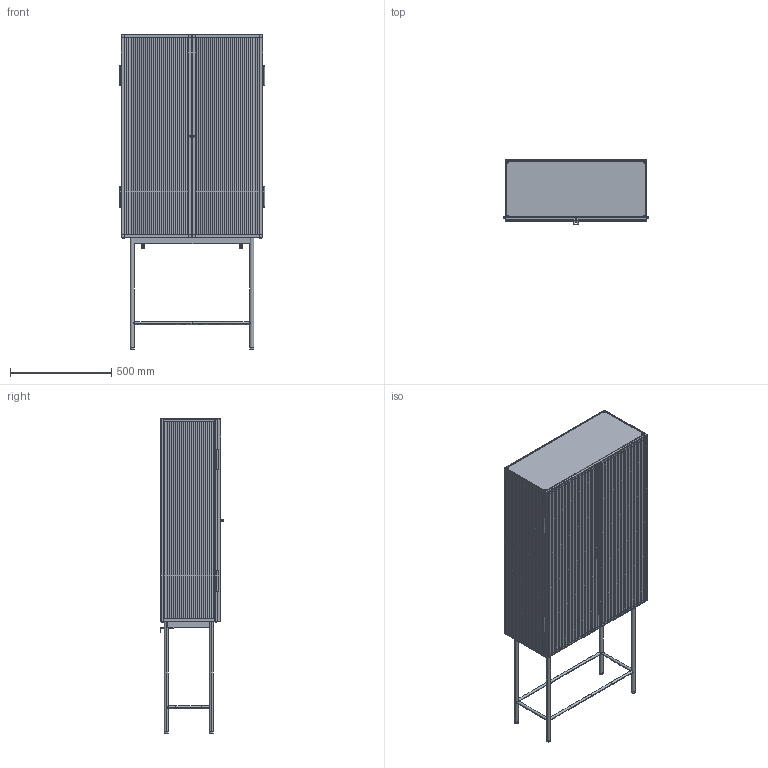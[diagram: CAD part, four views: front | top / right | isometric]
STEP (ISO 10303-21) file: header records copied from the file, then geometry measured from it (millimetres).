
FILE_DESCRIPTION(/* description */ (''),/* implementation_level */ '2;1');
FILE_NAME(/* name */ 'HFV2TX~0',/* time_stamp */ '2019-09-05T12:06:57+02:00',/* author */ (''),/* organization */ (''),/* preprocessor_version */ 'ST-DEVELOPER v16.5',/* originating_system */ '',/* authorisation */ '');
FILE_SCHEMA (('AUTOMOTIVE_DESIGN'));
Length unit declared in the file: millimetre
Products named in the file (1): Document
Bounding box: 715.98 x 315 x 1550 mm (x, y, z)
Volume: 9960008.2 mm3; surface area: 6708366.6 mm2
Topology: 62 solids, 66 shells, 724 faces, 1645 edges, 1033 vertices
Faces by surface type: plane 396, bspline 328
Entity records: 20789 total; most frequent: CARTESIAN_POINT 10567, ORIENTED_EDGE 3242, EDGE_CURVE 1625, VERTEX_POINT 1033, EDGE_LOOP 778, ADVANCED_FACE 724, FACE_OUTER_BOUND 724, B_SPLINE_CURVE_WITH_KNOTS 629
